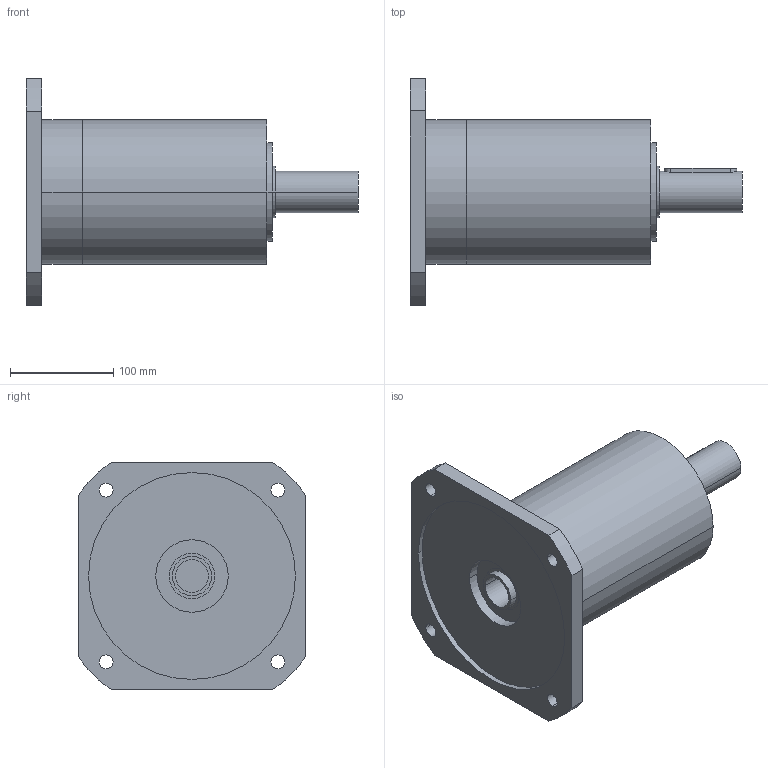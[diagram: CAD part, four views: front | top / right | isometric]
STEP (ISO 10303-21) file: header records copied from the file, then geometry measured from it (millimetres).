
FILE_DESCRIPTION(('CoCreate Modeling STEP Export'),'2;1');
FILE_NAME('GPR150_ig-9-12-16-20-28-35_40_B14_32_P12.stp','2014-08-19T17:04:05',(''),(''),'CoCreate Modeling STEP processor for AP214 (Solid Model)','CoCreate Modeling 16.00C 25-Feb-2009 (C) Parametric Technology GmbH','');
FILE_SCHEMA(('AUTOMOTIVE_DESIGN { 1 0 10303 214 1 1 1 1 }'));
Length unit declared in the file: millimetre
Products named in the file (2): GPR150_ig-9-12-16-20-28-35_40_B14_32_P12
Assembly tree (1 placements, depth 2):
  GPR150_ig-9-12-16-20-28-35_40_B14_32_P12
    GPR150_ig-9-12-16-20-28-35_40_B14_32_P12
Bounding box: 321 x 220 x 220 mm (x, y, z)
Volume: 3928164.7 mm3; surface area: 234625.5 mm2
Topology: 1 solids, 1 shells, 73 faces, 195 edges, 137 vertices
Faces by surface type: cylinder 44, plane 23, cone 6
Entity records: 2033 total; most frequent: CARTESIAN_POINT 395, ORIENTED_EDGE 386, DIRECTION 272, EDGE_CURVE 193, VERTEX_POINT 137, AXIS2_PLACEMENT_3D 102, EDGE_LOOP 96, FACE_OUTER_BOUND 73
